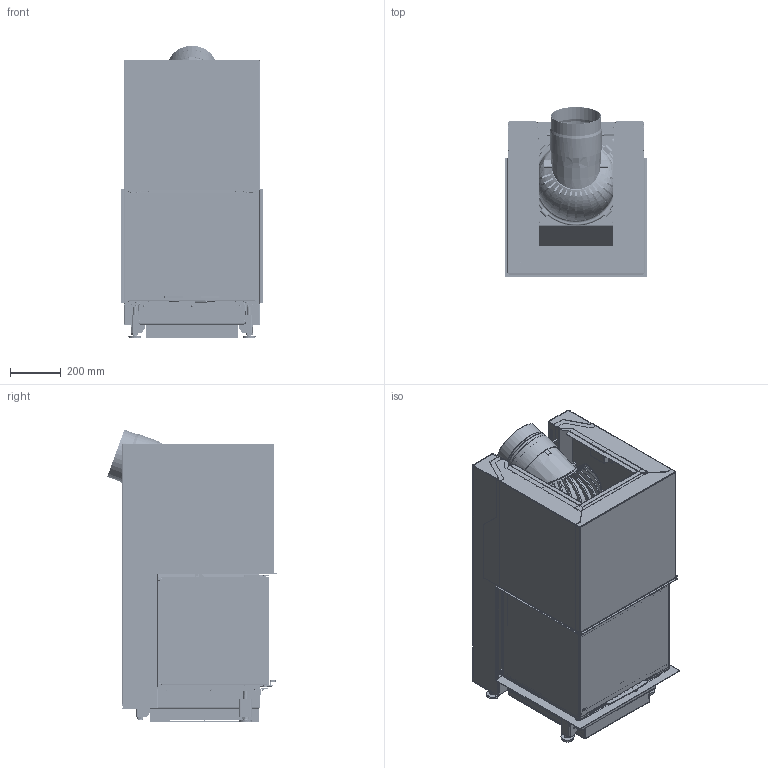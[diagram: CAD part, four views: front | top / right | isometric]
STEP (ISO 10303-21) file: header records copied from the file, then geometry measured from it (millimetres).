
FILE_DESCRIPTION(/* description */ (''),/* implementation_level */ '2;1');
FILE_NAME(/* name */ 'C:\ADSK_DM_WS\CAD_3D\03 Geraete\RIII 45x56x46\Zeichnungen\RIII 45x56x46 Gen.2 ohne Mantel Abgang hinten CAD Planung defriten 2021-03158 211124.stp',/* time_stamp */ '2021-11-24T09:36:30+01:00',/* author */ ('CPI'),/* organization */ (''),/* preprocessor_version */ 'ST-DEVELOPER v18.1',/* originating_system */ 'Autodesk Inventor 2022',/* authorisation */ '');
FILE_SCHEMA (('AUTOMOTIVE_DESIGN { 1 0 10303 214 3 1 1 }'));
Products named in the file (8): 2021-03158; 2021-03140; 2021-03145; 2021-03147; 2021-03149; 2021-03151; 2021-03155; 2018-00985
Assembly tree (7 placements, depth 2):
  2021-03158
    2021-03140
    2021-03145
    2021-03147
    2021-03149
    2021-03151
    2021-03155
    2018-00985
Bounding box: 560 x 668.8 x 1154.38 mm (x, y, z)
Volume: 26698370.5 mm3; surface area: 13123741.6 mm2
Topology: 17 solids, 31 shells, 7782 faces, 21505 edges, 13586 vertices
Faces by surface type: plane 4674, cylinder 2608, bspline 225, cone 214, torus 60, sphere 1
Full cylindrical faces by diameter (mm): 3.242 x6, 4 x9, 4.8 x1, 6 x3, 7.5 x8, 7.9 x2, 10 x19, 10.21 x4, 12 x4, 16 x10, 20 x4, 30 x4, 163 x1, 194 x1, 198 x1, 200 x1, 204 x1, 333 x1, 339 x1
Entity records: 260438 total; most frequent: CARTESIAN_POINT 55617, ORIENTED_EDGE 42902, DIRECTION 41702, EDGE_CURVE 21508, LINE 14060, VECTOR 14060, AXIS2_PLACEMENT_3D 13821, VERTEX_POINT 13582
